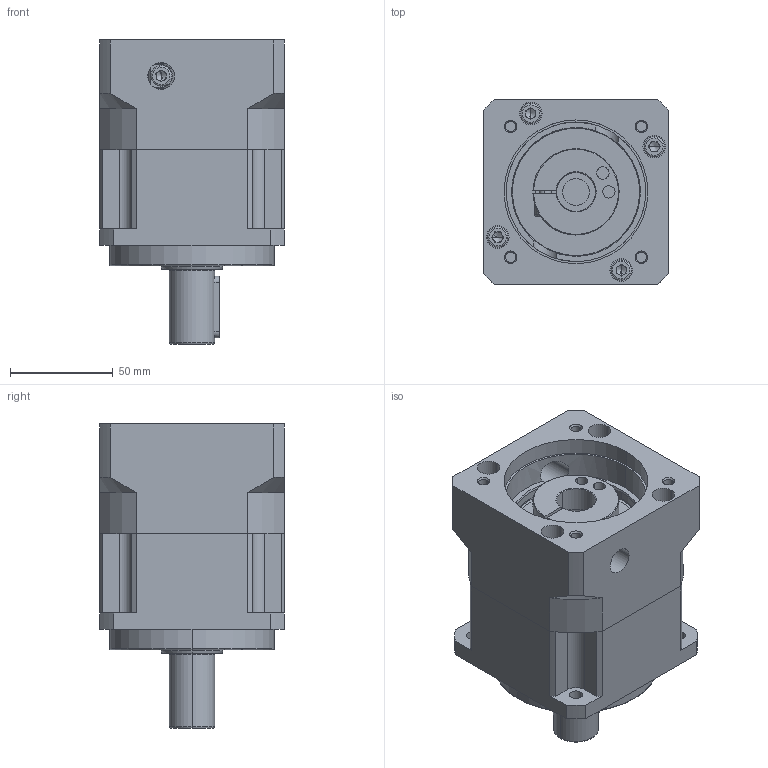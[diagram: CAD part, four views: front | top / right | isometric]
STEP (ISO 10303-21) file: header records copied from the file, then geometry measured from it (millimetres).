
FILE_DESCRIPTION (( 'STEP AP214' ), '1' );
FILE_NAME ('XAB090-L1-[ ]-P2 19-35-70-90-M6 梓袧22粣.step', '2023-05-13T06:42:40', ( '' ), ( '' ), 'SwSTEP 2.0', 'SolidWorks 2022', '' );
FILE_SCHEMA (( 'AUTOMOTIVE_DESIGN' ));
Length unit declared in the file: millimetre
Products named in the file (1): XAB090-L1-[ ]-P2 19-35-70-90-M6 梓袧22粣
Bounding box: 90 x 90 x 148 mm (x, y, z)
Volume: 528163.6 mm3; surface area: 128302.9 mm2
Topology: 9 solids, 9 shells, 435 faces, 1017 edges, 642 vertices
Faces by surface type: cylinder 187, plane 166, cone 61, torus 21
Entity records: 13691 total; most frequent: CARTESIAN_POINT 2793, DIRECTION 2343, ORIENTED_EDGE 2010, EDGE_CURVE 1005, AXIS2_PLACEMENT_3D 940, VERTEX_POINT 642, EDGE_LOOP 519, CIRCLE 504
